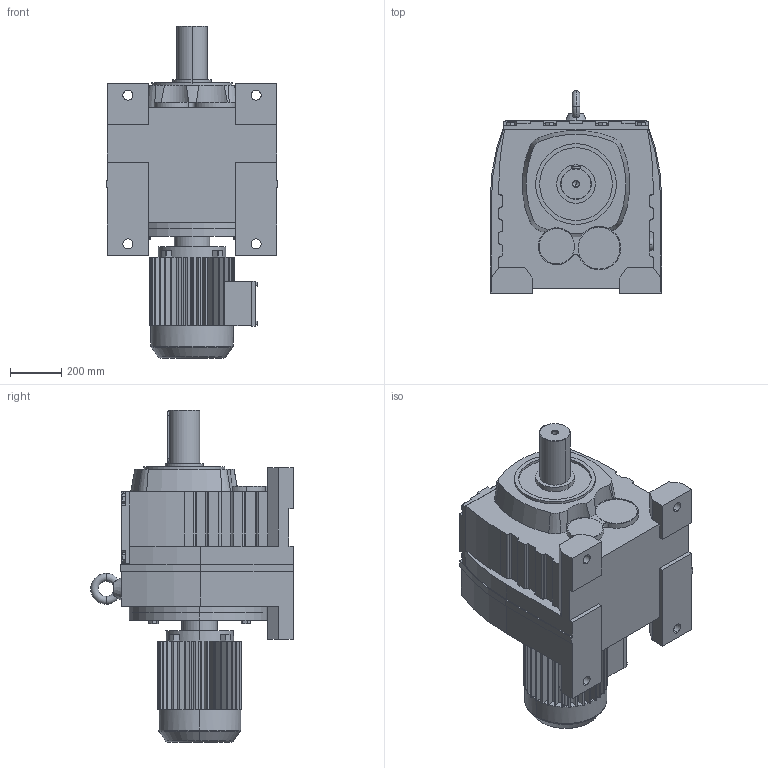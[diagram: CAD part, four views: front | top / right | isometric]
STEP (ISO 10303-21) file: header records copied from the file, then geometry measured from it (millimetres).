
FILE_DESCRIPTION(('Open CASCADE Model'),'2;1');
FILE_NAME('Open CASCADE Shape Model','2021-07-14T11:09:53',('Author'),( 'Open CASCADE'),'Open CASCADE STEP processor 6.3','Open CASCADE 6.3' ,'Unknown');
FILE_SCHEMA(('AUTOMOTIVE_DESIGN_CC2 { 1 2 10303 214 -1 1 5 4 }'));
Length unit declared in the file: millimetre
Products named in the file (3): 1_R167-Y160M; R37‵167_167.step; 萇儂_550_Y160M.step
Assembly tree (2 placements, depth 2):
  1_R167-Y160M
    R37‵167_167.step
    萇儂_550_Y160M.step
Bounding box: 670 x 790 x 1295 mm (x, y, z)
Volume: 250387513.2 mm3; surface area: 4359302.9 mm2
Topology: 2 solids, 2 shells, 741 faces, 1968 edges, 1273 vertices
Faces by surface type: plane 526, cylinder 185, cone 20, torus 10
Entity records: 51682 total; most frequent: CARTESIAN_POINT 14124, DIRECTION 6550, ORIENTED_EDGE 3932, PCURVE 3932, DEFINITIONAL_REPRESENTATION 3932, LINE 3673, VECTOR 3673, EDGE_CURVE 1966
